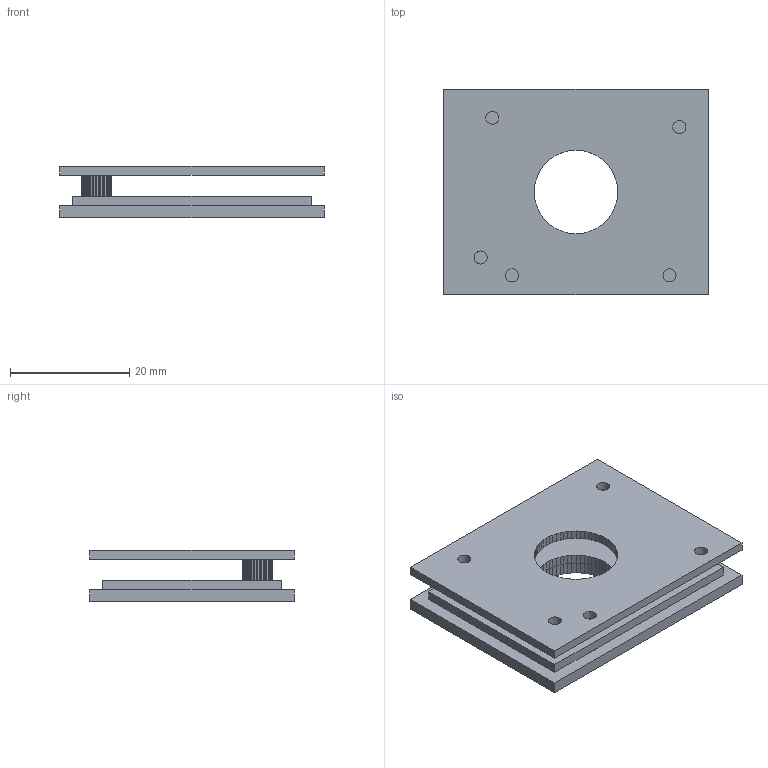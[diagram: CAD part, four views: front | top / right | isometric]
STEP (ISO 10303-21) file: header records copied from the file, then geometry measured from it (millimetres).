
FILE_DESCRIPTION(('Open CASCADE Model'),'2;1');
FILE_NAME('Open CASCADE Shape Model','1979-01-01T00:00:00',('Author'),( 'Open CASCADE'),'Open CASCADE STEP processor 8.0','Open CASCADE 8.0' ,'Unknown');
FILE_SCHEMA(('AUTOMOTIVE_DESIGN { 1 0 10303 214 1 1 1 1 }'));
Length unit declared in the file: millimetre
Products named in the file (5): Open CASCADE STEP translator 8.0 1; Open CASCADE STEP translator 8.0 1.1; Open CASCADE STEP translator 8.0 1.2; Open CASCADE STEP translator 8.0 1.3; Open CASCADE STEP translator 8.0 1.4
Assembly tree (4 placements, depth 2):
  Open CASCADE STEP translator 8.0 1
    Open CASCADE STEP translator 8.0 1.1
    Open CASCADE STEP translator 8.0 1.2
    Open CASCADE STEP translator 8.0 1.3
    Open CASCADE STEP translator 8.0 1.4
Bounding box: 44.4 x 34.4 x 8.6 mm (x, y, z)
Volume: 6496.1 mm3; surface area: 8779 mm2
Topology: 4 solids, 4 shells, 350 faces, 1026 edges, 684 vertices
Faces by surface type: plane 340, cylinder 10
Full cylindrical faces by diameter (mm): 2.2 x10
Entity records: 24860 total; most frequent: CARTESIAN_POINT 4117, DIRECTION 3808, LINE 3038, VECTOR 3038, ORIENTED_EDGE 2052, PCURVE 2052, DEFINITIONAL_REPRESENTATION 2052, EDGE_CURVE 1026
